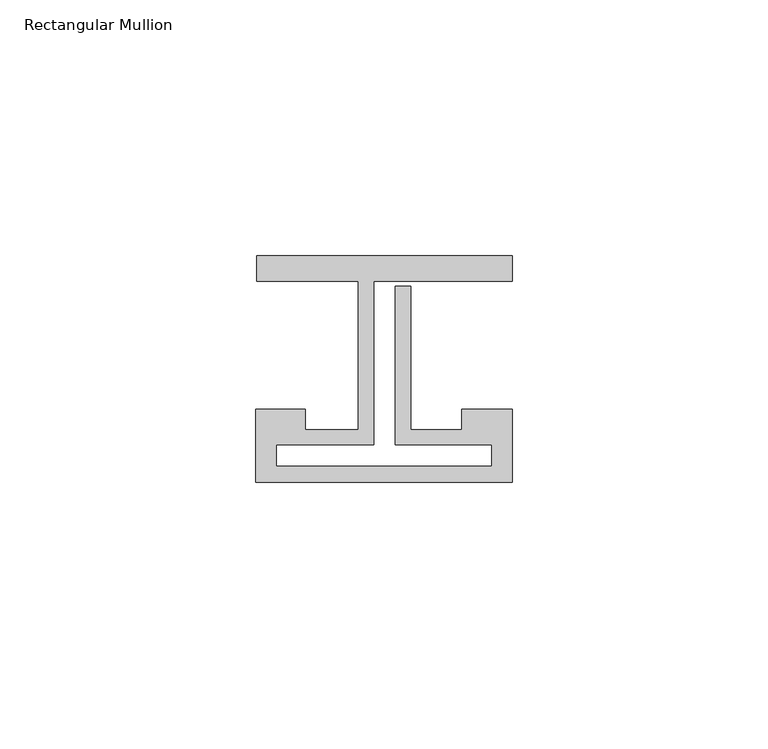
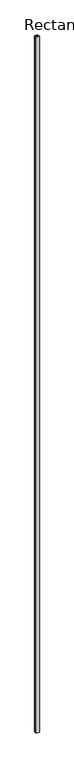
"""IFC4 building model written with IfcOpenShell, lengths in millimetres: member geometry, Rectangular Mullion : Reynaers_CW-50_Mullion-Transom_Horizontal_5mm_Facecap-02A."""

from ifc_helpers import new_model, si_unit, frame, origin, place, context, project, spatial, polyline, outline, extrude, source, transform, mapped, element, save


def rectangular_mullion_37283115(model_context):
    return source(origin(), model_context, "Body", "SweptSolid", [
        extrude(outline(polyline([(-24.8004059, 17.5), (25.1995941, 17.5), (25.1995941, 12.5), (-1.9004059, 12.5), (-1.9004059, -19.5), (-20.994845, -19.5), (-20.994845, -23.7191338), (21.1995941, -23.7191338), (21.1995941, -19.5), (2.2995941, -19.5), (2.2995941, 11.5), (5.2995941, 11.5), (5.2995941, -16.5), (15.2996495, -16.5), (15.2996495, -12.5), (25.1995941, -12.5), (25.1995941, -26.8), (-24.994845, -26.8), (-24.994845, -12.5), (-15.2996495, -12.5), (-15.2996495, -16.5), (-4.9004059, -16.5), (-4.9004059, 12.5), (-24.8004059, 12.5), (-24.8004059, 17.5)])), frame((0.0, 0.0, -12000.0), z_axis=(0.0, 0.0, 1.0), x_axis=(1.0, 0.0, 0.0)), (0.0, 0.0, 1.0), 12000.0),
    ])


if __name__ == "__main__":
    model = new_model("IFC4")
    model_context = context("Model", 3, world=origin())
    ifc_project = project(units=[si_unit("LENGTHUNIT", "METRE", prefix="MILLI")], contexts=[model_context])
    site = spatial("IfcSite", under=ifc_project)
    building = spatial("IfcBuilding", under=site)
    placement = place(None, origin())
    rectangular_mullion_shape = rectangular_mullion_37283115(model_context)
    element("IfcMember", 1, ObjectType="Rectangular Mullion : Reynaers_CW-50_Mullion-Transom_Horizontal_5mm_Facecap-02A", at=placement, inside=building, context=model_context, shape_type="MappedRepresentation", body=[
        mapped(rectangular_mullion_shape, transform((0.0, 0.0, 0.0), x_axis=(1.0, 0.0, 0.0), y_axis=(0.0, 1.0, 0.0), z_axis=(0.0, 0.0, 1.0))),
    ])
    save(model, "model.ifc")
